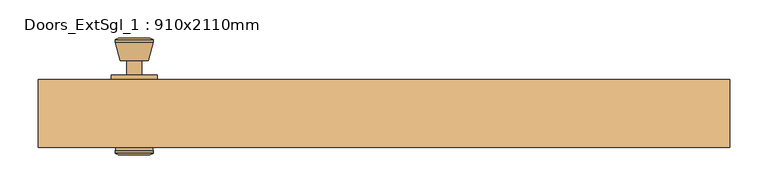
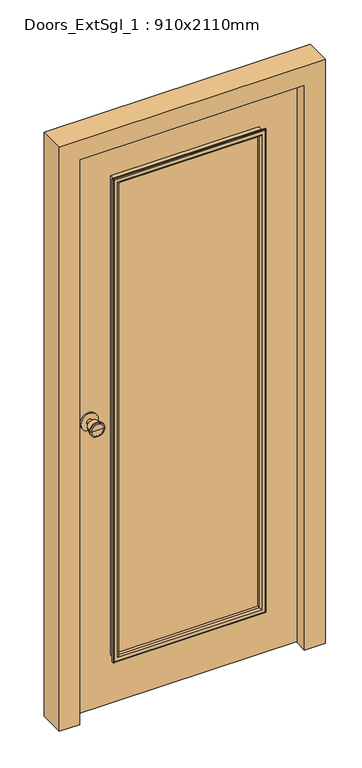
"""IFC4 building model written with IfcOpenShell, lengths in millimetres: door geometry, Doors_ExtSgl_1 : 910x2110mm."""

from ifc_helpers import new_model, si_unit, point, frame, frame_2d, origin, place, context, project, spatial, polyline, circle_curve, ellipse_curve, trimmed, segment, composite_curve, outline, extrude, faceted_brep, source, transform, mapped, element, save
from ifc_brep_helpers import plane_surface, cylinder_surface, revolved_surface, advanced_brep


def doors_extsgl_1_910x2110mm_7b8cb358(model_context):
    return source(origin(), model_context, "Body", "SolidModel", [
        advanced_brep(
        [(-328.5, -5.0, 1050.0), (-338.5, -5.0, 1050.0), (-318.5, -5.0, 1050.0), (-308.0241324, 44.0, 1050.0), (-348.9758676, 44.0, 1050.0), (-328.5, 44.0, 1050.0), (-303.5, 42.1721319, 1050.0), (-353.5, 42.1721319, 1050.0), (-303.5, 38.7084537, 1050.0), (-353.5, 38.7084537, 1050.0), (-309.863764, 14.0, 1050.0), (-347.136236, 14.0, 1050.0), (-318.5, 14.0, 1050.0), (-338.5, 14.0, 1050.0)],
        [
            (0, 1),
            (1, 2, circle_curve(frame((-328.5, -5.0, 1050.0), z_axis=(0.0, -1.0, 0.0), x_axis=(-1.0, 0.0, 0.0)), 10.0)),
            (2, 0),
            (2, 1, circle_curve(frame((-328.5, -5.0, 1050.0), z_axis=(0.0, -1.0, 0.0), x_axis=(-1.0, 0.0, 0.0)), 10.0)),
            (3, 4, circle_curve(frame((-328.5, 44.0, 1050.0), z_axis=(0.0, 1.0, 0.0), x_axis=(-1.0, 0.0, 0.0)), 20.4758676)),
            (4, 5),
            (5, 3),
            (4, 3, circle_curve(frame((-328.5, 44.0, 1050.0), z_axis=(0.0, 1.0, 0.0), x_axis=(-1.0, 0.0, 0.0)), 20.4758676)),
            (6, 7, circle_curve(frame((-328.5, 42.1721319, 1050.0), z_axis=(0.0, 1.0, 0.0), x_axis=(-1.0, 0.0, 0.0)), 25.0)),
            (7, 4),
            (3, 6),
            (7, 6, circle_curve(frame((-328.5, 42.1721319, 1050.0), z_axis=(0.0, 1.0, 0.0), x_axis=(-1.0, 0.0, 0.0)), 25.0)),
            (8, 9, circle_curve(frame((-328.5, 38.7084537, 1050.0), z_axis=(0.0, 1.0, 0.0), x_axis=(-1.0, 0.0, 0.0)), 25.0)),
            (9, 7),
            (6, 8),
            (9, 8, circle_curve(frame((-328.5, 38.7084537, 1050.0), z_axis=(0.0, 1.0, 0.0), x_axis=(-1.0, 0.0, 0.0)), 25.0)),
            (10, 11, circle_curve(frame((-328.5, 14.0, 1050.0), z_axis=(0.0, 1.0, 0.0), x_axis=(-1.0, 0.0, 0.0)), 18.636236)),
            (11, 9),
            (8, 10),
            (11, 10, circle_curve(frame((-328.5, 14.0, 1050.0), z_axis=(0.0, 1.0, 0.0), x_axis=(-1.0, 0.0, 0.0)), 18.636236)),
            (12, 13, circle_curve(frame((-328.5, 14.0, 1050.0), z_axis=(0.0, 1.0, 0.0), x_axis=(-1.0, 0.0, 0.0)), 10.0)),
            (13, 11),
            (10, 12),
            (13, 12, circle_curve(frame((-328.5, 14.0, 1050.0), z_axis=(0.0, 1.0, 0.0), x_axis=(-1.0, 0.0, 0.0)), 10.0)),
            (1, 13),
            (12, 2),
        ],
        [
            plane_surface(frame((-328.5, -5.0, 1050.0), z_axis=(0.0, -1.0, 0.0), x_axis=(-1.0, 0.0, 0.0))),
            plane_surface(frame((-328.5, 44.0, 1050.0), z_axis=(0.0, 1.0, 0.0), x_axis=(-1.0, 0.0, 0.0))),
            revolved_surface(polyline([(-348.9758676, 44.0, 1050.0), (-353.5, 42.1721319, 1050.0)]), (-328.5, -5.0, 1050.0), (0.0, -1.0, 0.0)),
            cylinder_surface(frame((-328.5, -5.0, 1050.0), z_axis=(0.0, -1.0, 0.0), x_axis=(-1.0, 0.0, 0.0)), 25.0),
            revolved_surface(polyline([(-353.5, 38.7084537, 1050.0), (-347.136236, 14.0, 1050.0)]), (-328.5, -5.0, 1050.0), (0.0, -1.0, 0.0)),
            plane_surface(frame((-328.5, 14.0, 1050.0), z_axis=(0.0, -1.0, 0.0), x_axis=(-1.0, 0.0, 0.0))),
            cylinder_surface(frame((-328.5, -5.0, 1050.0), z_axis=(0.0, -1.0, 0.0), x_axis=(-1.0, 0.0, 0.0)), 10.0),
        ],
        [
            (0, [[1, 2, 3]]),
            (0, [[-3, 4, -1]]),
            (1, [[5, 6, 7]]),
            (1, [[8, -7, -6]]),
            (2, [[9, 10, -5, 11]]),
            (2, [[12, -11, -8, -10]]),
            (3, [[13, 14, -9, 15]]),
            (3, [[16, -15, -12, -14]]),
            (4, [[17, 18, -13, 19]]),
            (4, [[20, -19, -16, -18]]),
            (5, [[21, 22, -17, 23]]),
            (5, [[24, -23, -20, -22]]),
            (6, [[-2, 25, -21, 26]]),
            (6, [[-4, -26, -24, -25]]),
        ],
    ),
        extrude(outline(composite_curve([segment(trimmed(circle_curve(frame_2d((1050.0, -328.5)), 30.0), [point((1050.0, -358.5))], [point((1050.0, -298.5))], False, "CARTESIAN"), True, "CONTINUOUS"), segment(trimmed(circle_curve(frame_2d((1050.0, -328.5)), 30.0), [point((1050.0, -298.5))], [point((1050.0, -358.5))], False, "CARTESIAN"), True, "CONTINUOUS")], self_intersect=False)), frame((0.0, -11.0, 0.0), z_axis=(0.0, 1.0, 0.0), x_axis=(0.0, 0.0, 1.0)), (0.0, 0.0, 1.0), 6.0),
        advanced_brep(
        [(-328.5, -61.0, 1050.0), (-318.5, -61.0, 1050.0), (-338.5, -61.0, 1050.0), (-308.0241324, -110.0, 1050.0), (-328.5, -110.0, 1050.0), (-348.9758676, -110.0, 1050.0), (-303.5, -108.1721319, 1050.0), (-353.5, -108.1721319, 1050.0), (-303.5, -104.7084537, 1050.0), (-353.5, -104.7084537, 1050.0), (-309.863764, -80.0, 1050.0), (-347.136236, -80.0, 1050.0), (-318.5, -80.0, 1050.0), (-338.5, -80.0, 1050.0)],
        [
            (0, 1),
            (1, 2, circle_curve(frame((-328.5, -61.0, 1050.0), z_axis=(0.0, 1.0, 0.0), x_axis=(-1.0, 0.0, 0.0)), 10.0)),
            (2, 0),
            (2, 1, circle_curve(frame((-328.5, -61.0, 1050.0), z_axis=(0.0, 1.0, 0.0), x_axis=(-1.0, 0.0, 0.0)), 10.0)),
            (3, 4),
            (4, 5),
            (5, 3, circle_curve(frame((-328.5, -110.0, 1050.0), z_axis=(0.0, -1.0, 0.0), x_axis=(-1.0, 0.0, 0.0)), 20.4758676)),
            (3, 5, circle_curve(frame((-328.5, -110.0, 1050.0), z_axis=(0.0, -1.0, 0.0), x_axis=(-1.0, 0.0, 0.0)), 20.4758676)),
            (6, 3),
            (5, 7),
            (7, 6, circle_curve(frame((-328.5, -108.1721319, 1050.0), z_axis=(0.0, -1.0, 0.0), x_axis=(-1.0, 0.0, 0.0)), 25.0)),
            (6, 7, circle_curve(frame((-328.5, -108.1721319, 1050.0), z_axis=(0.0, -1.0, 0.0), x_axis=(-1.0, 0.0, 0.0)), 25.0)),
            (8, 6),
            (7, 9),
            (9, 8, circle_curve(frame((-328.5, -104.7084537, 1050.0), z_axis=(0.0, -1.0, 0.0), x_axis=(-1.0, 0.0, 0.0)), 25.0)),
            (8, 9, circle_curve(frame((-328.5, -104.7084537, 1050.0), z_axis=(0.0, -1.0, 0.0), x_axis=(-1.0, 0.0, 0.0)), 25.0)),
            (10, 8),
            (9, 11),
            (11, 10, circle_curve(frame((-328.5, -80.0, 1050.0), z_axis=(0.0, -1.0, 0.0), x_axis=(-1.0, 0.0, 0.0)), 18.636236)),
            (10, 11, circle_curve(frame((-328.5, -80.0, 1050.0), z_axis=(0.0, -1.0, 0.0), x_axis=(-1.0, 0.0, 0.0)), 18.636236)),
            (12, 10),
            (11, 13),
            (13, 12, circle_curve(frame((-328.5, -80.0, 1050.0), z_axis=(0.0, -1.0, 0.0), x_axis=(-1.0, 0.0, 0.0)), 10.0)),
            (12, 13, circle_curve(frame((-328.5, -80.0, 1050.0), z_axis=(0.0, -1.0, 0.0), x_axis=(-1.0, 0.0, 0.0)), 10.0)),
            (1, 12),
            (13, 2),
        ],
        [
            plane_surface(frame((-328.5, -61.0, 1050.0), z_axis=(0.0, 1.0, 0.0), x_axis=(-1.0, 0.0, 0.0))),
            plane_surface(frame((-328.5, -110.0, 1050.0), z_axis=(0.0, -1.0, 0.0), x_axis=(-1.0, 0.0, 0.0))),
            revolved_surface(polyline([(-348.9758676, -110.0, 1050.0), (-353.5, -108.1721319, 1050.0)]), (-328.5, -61.0, 1050.0), (0.0, 1.0, 0.0)),
            cylinder_surface(frame((-328.5, -61.0, 1050.0), z_axis=(0.0, 1.0, 0.0), x_axis=(-1.0, 0.0, 0.0)), 25.0),
            revolved_surface(polyline([(-353.5, -104.7084537, 1050.0), (-347.136236, -80.0, 1050.0)]), (-328.5, -61.0, 1050.0), (0.0, 1.0, 0.0)),
            plane_surface(frame((-328.5, -80.0, 1050.0), z_axis=(0.0, 1.0, 0.0), x_axis=(-1.0, 0.0, 0.0))),
            cylinder_surface(frame((-328.5, -61.0, 1050.0), z_axis=(0.0, 1.0, 0.0), x_axis=(-1.0, 0.0, 0.0)), 10.0),
        ],
        [
            (0, [[1, 2, 3]]),
            (0, [[-3, 4, -1]]),
            (1, [[5, 6, 7]]),
            (1, [[-6, -5, 8]]),
            (2, [[9, -7, 10, 11]]),
            (2, [[-10, -8, -9, 12]]),
            (3, [[13, -11, 14, 15]]),
            (3, [[-14, -12, -13, 16]]),
            (4, [[17, -15, 18, 19]]),
            (4, [[-18, -16, -17, 20]]),
            (5, [[21, -19, 22, 23]]),
            (5, [[-22, -20, -21, 24]]),
            (6, [[25, -23, 26, -2]]),
            (6, [[-26, -24, -25, -4]]),
        ],
    ),
        extrude(outline(composite_curve([segment(trimmed(circle_curve(frame_2d((1050.0, -328.5)), 30.0), [point((1050.0, -358.5))], [point((1050.0, -298.5))], False, "CARTESIAN"), True, "CONTINUOUS"), segment(trimmed(circle_curve(frame_2d((1050.0, -328.5)), 30.0), [point((1050.0, -298.5))], [point((1050.0, -358.5))], False, "CARTESIAN"), True, "CONTINUOUS")], self_intersect=False)), frame((0.0, -61.0, 0.0), z_axis=(0.0, 1.0, 0.0), x_axis=(0.0, 0.0, 1.0)), (0.0, 0.0, 1.0), 6.0),
        faceted_brep([(384.5, -100.0, 0.0), (384.5, -58.0, 0.0), (406.5, -58.0, 0.0), (406.5, -11.0, 0.0), (455.0, -11.0, 0.0), (455.0, -100.0, 0.0), (455.0, -100.0, 2110.0), (-455.0, -100.0, 2110.0), (-455.0, -100.0, 0.0), (-384.5, -100.0, 0.0), (-384.5, -100.0, 2039.5), (384.5, -100.0, 2039.5), (455.0, -11.0, 2110.0), (406.5, -11.0, 2061.5), (-406.5, -11.0, 2061.5), (-406.5, -11.0, 0.0), (-455.0, -11.0, 0.0), (-455.0, -11.0, 2110.0), (406.5, -58.0, 2061.5), (384.5, -58.0, 2039.5), (-384.5, -58.0, 2039.5), (-384.5, -58.0, 0.0), (-406.5, -58.0, 0.0), (-406.5, -58.0, 2061.5)], [[[0, 1, 2, 3, 4, 5]], [[5, 6, 7, 8, 9, 10, 11, 0]], [[4, 12, 6, 5]], [[3, 13, 14, 15, 16, 17, 12, 4]], [[2, 18, 13, 3]], [[1, 19, 20, 21, 22, 23, 18, 2]], [[0, 11, 19, 1]], [[10, 9, 21, 20]], [[9, 8, 16, 15, 22, 21]], [[17, 16, 8, 7]], [[23, 22, 15, 14]], [[12, 17, 7, 6]], [[18, 23, 14, 13]], [[11, 10, 20, 19]]]),
        extrude(outline(polyline([(4.0, 403.5), (2058.5, 403.5), (2058.5, -404.4250294), (4.0, -404.4250294), (4.0, 403.5)]), holes=[polyline([(179.0, -253.5), (1908.5, -253.5), (1908.5, 253.5), (179.0, 253.5), (179.0, -253.5)])]), frame((0.0, -55.0, 0.0), z_axis=(0.0, 1.0, 0.0), x_axis=(0.0, 0.0, 1.0)), (0.0, 0.0, 1.0), 44.0),
        extrude(outline(polyline([(-253.5, -70.0), (-253.5, -46.0), (253.5, -46.0), (253.5, -70.0), (-253.5, -70.0)])), frame((0.0, 0.0, 179.0), z_axis=(0.0, 0.0, 1.0), x_axis=(1.0, 0.0, 0.0)), (0.0, 0.0, 1.0), 1729.5),
        advanced_brep(
        [(-261.5, -84.0, 171.0), (-261.5, -84.0, 1916.5), (-261.5, -80.0, 1916.5), (-261.5, -80.0, 171.0), (-259.5, -86.0, 173.0), (-259.5, -86.0, 1914.5), (-241.5, -81.0, 191.0), (-241.5, -81.0, 1896.5), (-246.5, -86.0, 1901.5), (-246.5, -86.0, 186.0), (-241.5, -70.0, 191.0), (-241.5, -70.0, 1896.5), (-253.5, -80.0, 179.0), (-253.5, -80.0, 1908.5), (-253.5, -70.0, 1908.5), (-253.5, -70.0, 179.0), (261.5, -84.0, 1916.5), (261.5, -80.0, 1916.5), (259.5, -86.0, 1914.5), (241.5, -81.0, 1896.5), (246.5, -86.0, 1901.5), (241.5, -70.0, 1896.5), (253.5, -80.0, 1908.5), (253.5, -70.0, 1908.5), (261.5, -84.0, 171.0), (261.5, -80.0, 171.0), (259.5, -86.0, 173.0), (241.5, -81.0, 191.0), (246.5, -86.0, 186.0), (241.5, -70.0, 191.0), (253.5, -80.0, 179.0), (253.5, -70.0, 179.0)],
        [
            (0, 1),
            (1, 2),
            (2, 3),
            (3, 0),
            (4, 5),
            (5, 1, ellipse_curve(frame((-259.5, -84.0, 1914.5), z_axis=(-0.7071067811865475, 0.0, -0.7071067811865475), x_axis=(0.7071067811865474, 0.0, -0.7071067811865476)), 2.8284271, 2.0)),
            (0, 4, ellipse_curve(frame((-259.5, -84.0, 173.0), z_axis=(-0.7071067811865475, 0.0, 0.7071067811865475), x_axis=(-0.7071067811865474, 0.0, -0.7071067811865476)), 2.8284271, 2.0)),
            (6, 7),
            (7, 8, ellipse_curve(frame((-246.5, -81.0, 1901.5), z_axis=(-0.7071067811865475, 0.0, -0.7071067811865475), x_axis=(0.7071067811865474, 0.0, -0.7071067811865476)), 7.0710678, 5.0)),
            (8, 9),
            (9, 6, ellipse_curve(frame((-246.5, -81.0, 186.0), z_axis=(-0.7071067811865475, 0.0, 0.7071067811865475), x_axis=(-0.7071067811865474, 0.0, -0.7071067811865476)), 7.0710678, 5.0)),
            (10, 11),
            (11, 7),
            (6, 10),
            (12, 13),
            (13, 14),
            (14, 15),
            (15, 12),
            (1, 16),
            (16, 17),
            (17, 2),
            (5, 18),
            (18, 16, ellipse_curve(frame((259.5, -84.0, 1914.5), z_axis=(-0.7071067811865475, 0.0, 0.7071067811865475), x_axis=(-0.7071067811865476, 0.0, -0.7071067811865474)), 2.8284271, 2.0)),
            (7, 19),
            (19, 20, ellipse_curve(frame((246.5, -81.0, 1901.5), z_axis=(-0.7071067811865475, 0.0, 0.7071067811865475), x_axis=(-0.7071067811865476, 0.0, -0.7071067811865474)), 7.0710678, 5.0)),
            (20, 8),
            (11, 21),
            (21, 19),
            (13, 22),
            (22, 23),
            (23, 14),
            (16, 24),
            (24, 25),
            (25, 17),
            (18, 26),
            (26, 24, ellipse_curve(frame((259.5, -84.0, 173.0), z_axis=(0.7071067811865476, 0.0, 0.7071067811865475), x_axis=(-0.7071067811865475, 0.0, 0.7071067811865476)), 2.8284271, 2.0)),
            (19, 27),
            (27, 28, ellipse_curve(frame((246.5, -81.0, 186.0), z_axis=(0.7071067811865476, 0.0, 0.7071067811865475), x_axis=(-0.7071067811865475, 0.0, 0.7071067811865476)), 7.0710678, 5.0)),
            (28, 20),
            (21, 29),
            (29, 27),
            (22, 30),
            (30, 31),
            (31, 23),
            (24, 0),
            (3, 25),
            (26, 4),
            (28, 9),
            (27, 6),
            (29, 10),
            (31, 15),
            (30, 12),
        ],
        [
            plane_surface(frame((-261.5, -80.0, 171.0), z_axis=(-1.0, 0.0, 0.0), x_axis=(0.0, 0.0, 1.0))),
            cylinder_surface(frame((-259.5, -84.0, 179.0), z_axis=(0.0, 0.0, -1.0), x_axis=(-1.0, 0.0, 0.0)), 2.0),
            cylinder_surface(frame((-246.5, -81.0, 179.0), z_axis=(0.0, 0.0, -1.0), x_axis=(-1.0, 0.0, 0.0)), 5.0),
            plane_surface(frame((-241.5, -81.0, 191.0), z_axis=(1.0, 0.0, 0.0), x_axis=(0.0, 0.0, 1.0))),
            plane_surface(frame((-253.5, -70.0, 179.0), z_axis=(-1.0, 0.0, 0.0), x_axis=(0.0, 0.0, 1.0))),
            plane_surface(frame((-261.5, -80.0, 1916.5), z_axis=(0.0, 0.0, 1.0), x_axis=(1.0, 0.0, 0.0))),
            cylinder_surface(frame((-253.5, -84.0, 1914.5), z_axis=(-1.0, 0.0, 0.0), x_axis=(0.0, 0.0, 1.0)), 2.0),
            cylinder_surface(frame((-253.5, -81.0, 1901.5), z_axis=(-1.0, 0.0, 0.0), x_axis=(0.0, 0.0, 1.0)), 5.0),
            plane_surface(frame((-241.5, -81.0, 1896.5), z_axis=(0.0, 0.0, -1.0), x_axis=(1.0, 0.0, 0.0))),
            plane_surface(frame((-253.5, -70.0, 1908.5), z_axis=(0.0, 0.0, 1.0), x_axis=(1.0, 0.0, 0.0))),
            plane_surface(frame((261.5, -80.0, 1916.5), z_axis=(1.0, 0.0, 0.0), x_axis=(0.0, 0.0, -1.0))),
            cylinder_surface(frame((259.5, -84.0, 1908.5), z_axis=(0.0, 0.0, 1.0), x_axis=(1.0, 0.0, 0.0)), 2.0),
            cylinder_surface(frame((246.5, -81.0, 1908.5), z_axis=(0.0, 0.0, 1.0), x_axis=(1.0, 0.0, 0.0)), 5.0),
            plane_surface(frame((241.5, -81.0, 1896.5), z_axis=(-1.0, 0.0, 0.0), x_axis=(0.0, 0.0, -1.0))),
            plane_surface(frame((253.5, -70.0, 1908.5), z_axis=(1.0, 0.0, 0.0), x_axis=(0.0, 0.0, -1.0))),
            plane_surface(frame((261.5, -80.0, 171.0), z_axis=(0.0, 0.0, -1.0), x_axis=(-1.0, 0.0, 0.0))),
            cylinder_surface(frame((253.5, -84.0, 173.0), z_axis=(1.0, 0.0, 0.0), x_axis=(0.0, 0.0, -1.0)), 2.0),
            plane_surface(frame((259.5, -86.0, 173.0), z_axis=(0.0, -1.0, 0.0), x_axis=(-1.0, 0.0, 0.0))),
            cylinder_surface(frame((253.5, -81.0, 186.0), z_axis=(1.0, 0.0, 0.0), x_axis=(0.0, 0.0, -1.0)), 5.0),
            plane_surface(frame((241.5, -81.0, 191.0), z_axis=(0.0, 0.0, 1.0), x_axis=(-1.0, 0.0, 0.0))),
            plane_surface(frame((241.5, -70.0, 191.0), z_axis=(0.0, 1.0, 0.0), x_axis=(-1.0, 0.0, 0.0))),
            plane_surface(frame((253.5, -70.0, 179.0), z_axis=(0.0, 0.0, -1.0), x_axis=(-1.0, 0.0, 0.0))),
            plane_surface(frame((253.5, -80.0, 179.0), z_axis=(0.0, 1.0, 0.0), x_axis=(-1.0, 0.0, 0.0))),
        ],
        [
            (0, [[1, 2, 3, 4]]),
            (1, [[5, 6, -1, 7]]),
            (2, [[8, 9, 10, 11]]),
            (3, [[12, 13, -8, 14]]),
            (4, [[15, 16, 17, 18]]),
            (5, [[19, 20, 21, -2]]),
            (6, [[22, 23, -19, -6]]),
            (7, [[24, 25, 26, -9]]),
            (8, [[27, 28, -24, -13]]),
            (9, [[29, 30, 31, -16]]),
            (10, [[32, 33, 34, -20]]),
            (11, [[35, 36, -32, -23]]),
            (12, [[37, 38, 39, -25]]),
            (13, [[40, 41, -37, -28]]),
            (14, [[42, 43, 44, -30]]),
            (15, [[45, -4, 46, -33]]),
            (16, [[47, -7, -45, -36]]),
            (17, [[-5, -47, -35, -22], [-10, -26, -39, 48]]),
            (18, [[49, -11, -48, -38]]),
            (19, [[50, -14, -49, -41]]),
            (20, [[-17, -31, -44, 51], [-12, -50, -40, -27]]),
            (21, [[52, -18, -51, -43]]),
            (22, [[-3, -21, -34, -46], [-15, -52, -42, -29]]),
        ],
    ),
        advanced_brep(
        [(261.5, -32.0, 171.0), (261.5, -32.0, 1916.5), (261.5, -36.0, 1916.5), (261.5, -36.0, 171.0), (259.5, -30.0, 173.0), (259.5, -30.0, 1914.5), (241.5, -35.0, 191.0), (241.5, -35.0, 1896.5), (246.5, -30.0, 1901.5), (246.5, -30.0, 186.0), (241.5, -46.0, 191.0), (241.5, -46.0, 1896.5), (253.5, -36.0, 179.0), (253.5, -36.0, 1908.5), (253.5, -46.0, 1908.5), (253.5, -46.0, 179.0), (-261.5, -32.0, 1916.5), (-261.5, -36.0, 1916.5), (-259.5, -30.0, 1914.5), (-241.5, -35.0, 1896.5), (-246.5, -30.0, 1901.5), (-241.5, -46.0, 1896.5), (-253.5, -36.0, 1908.5), (-253.5, -46.0, 1908.5), (-261.5, -32.0, 171.0), (-261.5, -36.0, 171.0), (-259.5, -30.0, 173.0), (-241.5, -35.0, 191.0), (-246.5, -30.0, 186.0), (-241.5, -46.0, 191.0), (-253.5, -36.0, 179.0), (-253.5, -46.0, 179.0)],
        [
            (0, 1),
            (1, 2),
            (2, 3),
            (3, 0),
            (4, 5),
            (5, 1, ellipse_curve(frame((259.5, -32.0, 1914.5), z_axis=(0.7071067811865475, 0.0, -0.7071067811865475), x_axis=(-0.7071067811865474, 0.0, -0.7071067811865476)), 2.8284271, 2.0)),
            (0, 4, ellipse_curve(frame((259.5, -32.0, 173.0), z_axis=(0.7071067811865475, 0.0, 0.7071067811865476), x_axis=(0.7071067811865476, 0.0, -0.7071067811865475)), 2.8284271, 2.0)),
            (6, 7),
            (7, 8, ellipse_curve(frame((246.5, -35.0, 1901.5), z_axis=(0.7071067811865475, 0.0, -0.7071067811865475), x_axis=(-0.7071067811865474, 0.0, -0.7071067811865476)), 7.0710678, 5.0)),
            (8, 9),
            (9, 6, ellipse_curve(frame((246.5, -35.0, 186.0), z_axis=(0.7071067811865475, 0.0, 0.7071067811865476), x_axis=(0.7071067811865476, 0.0, -0.7071067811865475)), 7.0710678, 5.0)),
            (10, 11),
            (11, 7),
            (6, 10),
            (12, 13),
            (13, 14),
            (14, 15),
            (15, 12),
            (1, 16),
            (16, 17),
            (17, 2),
            (5, 18),
            (18, 16, ellipse_curve(frame((-259.5, -32.0, 1914.5), z_axis=(0.7071067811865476, 0.0, 0.7071067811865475), x_axis=(0.7071067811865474, 0.0, -0.7071067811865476)), 2.8284271, 2.0)),
            (7, 19),
            (19, 20, ellipse_curve(frame((-246.5, -35.0, 1901.5), z_axis=(0.7071067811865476, 0.0, 0.7071067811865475), x_axis=(0.7071067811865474, 0.0, -0.7071067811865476)), 7.0710678, 5.0)),
            (20, 8),
            (11, 21),
            (21, 19),
            (13, 22),
            (22, 23),
            (23, 14),
            (16, 24),
            (24, 25),
            (25, 17),
            (18, 26),
            (26, 24, ellipse_curve(frame((-259.5, -32.0, 173.0), z_axis=(-0.7071067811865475, 0.0, 0.7071067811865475), x_axis=(0.7071067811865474, 0.0, 0.7071067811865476)), 2.8284271, 2.0)),
            (19, 27),
            (27, 28, ellipse_curve(frame((-246.5, -35.0, 186.0), z_axis=(-0.7071067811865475, 0.0, 0.7071067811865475), x_axis=(0.7071067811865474, 0.0, 0.7071067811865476)), 7.0710678, 5.0)),
            (28, 20),
            (21, 29),
            (29, 27),
            (22, 30),
            (30, 31),
            (31, 23),
            (24, 0),
            (3, 25),
            (26, 4),
            (28, 9),
            (27, 6),
            (29, 10),
            (31, 15),
            (30, 12),
        ],
        [
            plane_surface(frame((261.5, -36.0, 171.0), z_axis=(1.0, 0.0, 0.0), x_axis=(0.0, 0.0, 1.0))),
            cylinder_surface(frame((259.5, -32.0, 179.0), z_axis=(0.0, 0.0, -1.0), x_axis=(1.0, 0.0, 0.0)), 2.0),
            cylinder_surface(frame((246.5, -35.0, 179.0), z_axis=(0.0, 0.0, -1.0), x_axis=(1.0, 0.0, 0.0)), 5.0),
            plane_surface(frame((241.5, -35.0, 191.0), z_axis=(-1.0, 0.0, 0.0), x_axis=(0.0, 0.0, 1.0))),
            plane_surface(frame((253.5, -46.0, 179.0), z_axis=(1.0, 0.0, 0.0), x_axis=(0.0, 0.0, 1.0))),
            plane_surface(frame((261.5, -36.0, 1916.5), z_axis=(0.0, 0.0, 1.0), x_axis=(-1.0, 0.0, 0.0))),
            cylinder_surface(frame((253.5, -32.0, 1914.5), z_axis=(1.0, 0.0, 0.0), x_axis=(0.0, 0.0, 1.0)), 2.0),
            cylinder_surface(frame((253.5, -35.0, 1901.5), z_axis=(1.0, 0.0, 0.0), x_axis=(0.0, 0.0, 1.0)), 5.0),
            plane_surface(frame((241.5, -35.0, 1896.5), z_axis=(0.0, 0.0, -1.0), x_axis=(-1.0, 0.0, 0.0))),
            plane_surface(frame((253.5, -46.0, 1908.5), z_axis=(0.0, 0.0, 1.0), x_axis=(-1.0, 0.0, 0.0))),
            plane_surface(frame((-261.5, -36.0, 1916.5), z_axis=(-1.0, 0.0, 0.0), x_axis=(0.0, 0.0, -1.0))),
            cylinder_surface(frame((-259.5, -32.0, 1908.5), z_axis=(0.0, 0.0, 1.0), x_axis=(-1.0, 0.0, 0.0)), 2.0),
            cylinder_surface(frame((-246.5, -35.0, 1908.5), z_axis=(0.0, 0.0, 1.0), x_axis=(-1.0, 0.0, 0.0)), 5.0),
            plane_surface(frame((-241.5, -35.0, 1896.5), z_axis=(1.0, 0.0, 0.0), x_axis=(0.0, 0.0, -1.0))),
            plane_surface(frame((-253.5, -46.0, 1908.5), z_axis=(-1.0, 0.0, 0.0), x_axis=(0.0, 0.0, -1.0))),
            plane_surface(frame((-261.5, -36.0, 171.0), z_axis=(0.0, 0.0, -1.0), x_axis=(1.0, 0.0, 0.0))),
            cylinder_surface(frame((-253.5, -32.0, 173.0), z_axis=(-1.0, 0.0, 0.0), x_axis=(0.0, 0.0, -1.0)), 2.0),
            plane_surface(frame((-259.5, -30.0, 173.0), z_axis=(0.0, 1.0, 0.0), x_axis=(1.0, 0.0, 0.0))),
            cylinder_surface(frame((-253.5, -35.0, 186.0), z_axis=(-1.0, 0.0, 0.0), x_axis=(0.0, 0.0, -1.0)), 5.0),
            plane_surface(frame((-241.5, -35.0, 191.0), z_axis=(0.0, 0.0, 1.0), x_axis=(1.0, 0.0, 0.0))),
            plane_surface(frame((-241.5, -46.0, 191.0), z_axis=(0.0, -1.0, 0.0), x_axis=(1.0, 0.0, 0.0))),
            plane_surface(frame((-253.5, -46.0, 179.0), z_axis=(0.0, 0.0, -1.0), x_axis=(1.0, 0.0, 0.0))),
            plane_surface(frame((-253.5, -36.0, 179.0), z_axis=(0.0, -1.0, 0.0), x_axis=(1.0, 0.0, 0.0))),
        ],
        [
            (0, [[1, 2, 3, 4]]),
            (1, [[5, 6, -1, 7]]),
            (2, [[8, 9, 10, 11]]),
            (3, [[12, 13, -8, 14]]),
            (4, [[15, 16, 17, 18]]),
            (5, [[19, 20, 21, -2]]),
            (6, [[22, 23, -19, -6]]),
            (7, [[24, 25, 26, -9]]),
            (8, [[27, 28, -24, -13]]),
            (9, [[29, 30, 31, -16]]),
            (10, [[32, 33, 34, -20]]),
            (11, [[35, 36, -32, -23]]),
            (12, [[37, 38, 39, -25]]),
            (13, [[40, 41, -37, -28]]),
            (14, [[42, 43, 44, -30]]),
            (15, [[45, -4, 46, -33]]),
            (16, [[47, -7, -45, -36]]),
            (17, [[-5, -47, -35, -22], [-10, -26, -39, 48]]),
            (18, [[49, -11, -48, -38]]),
            (19, [[50, -14, -49, -41]]),
            (20, [[-17, -31, -44, 51], [-12, -50, -40, -27]]),
            (21, [[52, -18, -51, -43]]),
            (22, [[-3, -21, -34, -46], [-15, -52, -42, -29]]),
        ],
    ),
    ])


if __name__ == "__main__":
    model = new_model("IFC4")
    model_context = context("Model", 3, world=origin())
    ifc_project = project(units=[si_unit("LENGTHUNIT", "METRE", prefix="MILLI")], contexts=[model_context])
    site = spatial("IfcSite", under=ifc_project)
    building = spatial("IfcBuilding", under=site)
    placement = place(None, origin())
    doors_extsgl_1_910x2110mm_shape = doors_extsgl_1_910x2110mm_7b8cb358(model_context)
    element("IfcDoor", 1, ObjectType="Doors_ExtSgl_1 : 910x2110mm", at=placement, inside=building, context=model_context, shape_type="MappedRepresentation", body=[
        mapped(doors_extsgl_1_910x2110mm_shape, transform((0.0, 0.0, 0.0), x_axis=(1.0, 0.0, 0.0), y_axis=(0.0, 1.0, 0.0), z_axis=(0.0, 0.0, 1.0))),
    ])
    save(model, "model.ifc")
